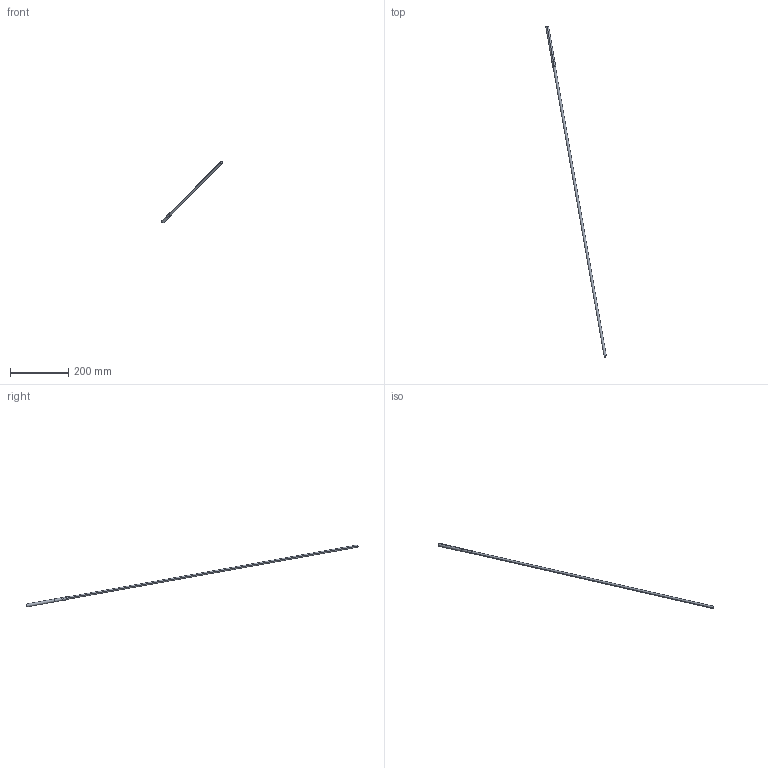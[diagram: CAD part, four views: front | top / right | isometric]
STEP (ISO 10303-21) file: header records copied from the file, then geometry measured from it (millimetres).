
FILE_DESCRIPTION((''),'2;1');
FILE_NAME('2-ALLUMINIO_SW0001','2025-05-20T11:24:08',('elena.baldelli'),(''),'CREO PARAMETRIC BY PTC INC, 2020354','CREO PARAMETRIC BY PTC INC, 2020354','');
FILE_SCHEMA(('CONFIG_CONTROL_DESIGN'));
Length unit declared in the file: millimetre
Products named in the file (1): 2-ALLUMINIO_SW0001
Bounding box: 207.84 x 1139.99 x 212.24 mm (x, y, z)
Surface area: 31002.2 mm2 (no closed solid volume)
Topology: 0 solids, 3 shells, 15 faces, 34 edges, 22 vertices
Faces by surface type: cylinder 6, cone 6, plane 3
Entity records: 504 total; most frequent: CARTESIAN_POINT 117, DIRECTION 80, ORIENTED_EDGE 62, EDGE_CURVE 34, AXIS2_PLACEMENT_3D 33, VERTEX_POINT 22, CIRCLE 18, EDGE_LOOP 15
